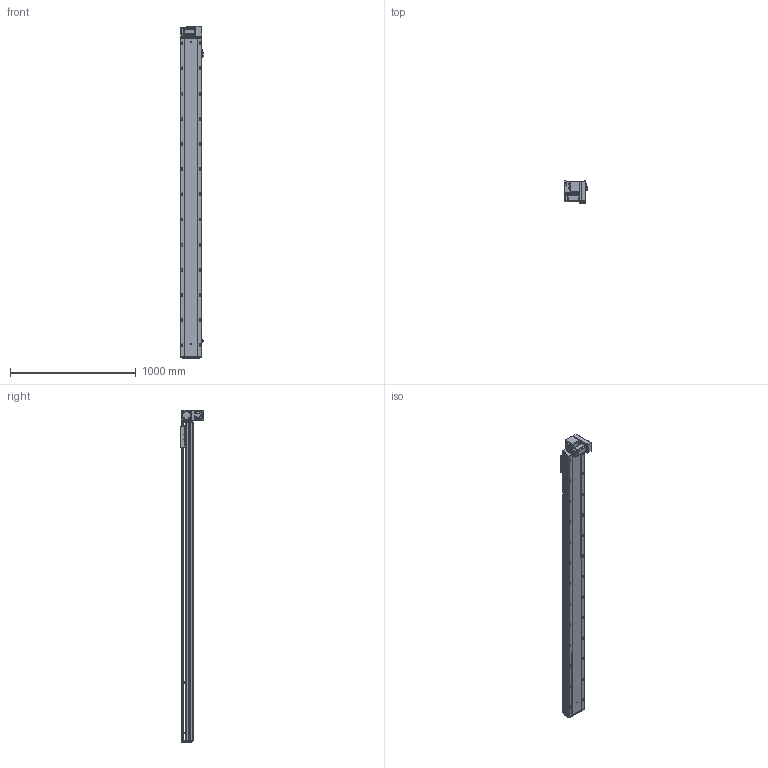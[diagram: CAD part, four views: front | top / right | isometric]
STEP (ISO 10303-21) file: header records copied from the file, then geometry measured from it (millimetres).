
FILE_DESCRIPTION (( 'STEP AP203' ), '1' );
FILE_NAME ('RY170-T-300-DR-P400W.SLDASM_2250.step', '2021-03-01T08:25:18', ( '盈信电脑' ), ( '东莞市道滘镇水果街19号' ), 'SwSTEP 2.0', 'SolidWorks 2012', '' );
FILE_SCHEMA (( 'CONFIG_CONTROL_DESIGN' ));
Length unit declared in the file: millimetre
Products named in the file (19): RY170-T-300-DR-P400W.SLDASM_2250; RY170-T-呴雄粣揤踡啣; 15; RY120-T主同步轮轴承压盖; RY170-T肮祭謫裔啣; RY170-T蹟翐M4; 滅袉蝶18-10; RY170-T肮祭湍揤踡輸1; RY170肮祭謫萇儂欶; RY170同步轮电机安装板(400W); RY170-T肮祭湍揤踡輸2; RY170翋肮祭謫釱; RY170外置感应片(200共用）; RY170肮祭謫ヶ裔啣; RY170肮祭湍臏賑輸; RY170綴裔啣; RY170-T-300肮祭謫倰第裔啣-DR_2250; 覜茼ん672; RY170-T-300肮祭謫倰第菁釱-DR_2250
Assembly tree (23 placements, depth 2):
  RY170-T-300-DR-P400W.SLDASM_2250
    RY170-T-300肮祭謫倰第菁釱-DR_2250
    RY170肮祭湍臏賑輸
    RY170-T-300肮祭謫倰第裔啣-DR_2250
    RY170綴裔啣
    覜茼ん672  x3
    RY170外置感应片(200共用）
    RY170肮祭謫ヶ裔啣
    RY170翋肮祭謫釱
    RY170同步轮电机安装板(400W)
    RY170肮祭謫萇儂欶
    RY170-T肮祭湍揤踡輸1  x2
    RY170-T肮祭湍揤踡輸2  x2
    RY120-T主同步轮轴承压盖
    RY170-T肮祭謫裔啣
    RY170-T蹟翐M4
    滅袉蝶18-10  x2
    RY170-T-呴雄粣揤踡啣
    15
Bounding box: 183.7 x 178 x 2638 mm (x, y, z)
Volume: 12128427.7 mm3; surface area: 4189763.8 mm2
Topology: 23 solids, 23 shells, 3082 faces, 8666 edges, 5519 vertices
Faces by surface type: cylinder 1456, plane 1276, cone 320, bspline 30
Entity records: 94477 total; most frequent: CARTESIAN_POINT 22111, ORIENTED_EDGE 14872, DIRECTION 14448, EDGE_CURVE 7436, AXIS2_PLACEMENT_3D 5146, VERTEX_POINT 4875, VECTOR 4156, LINE 4156
